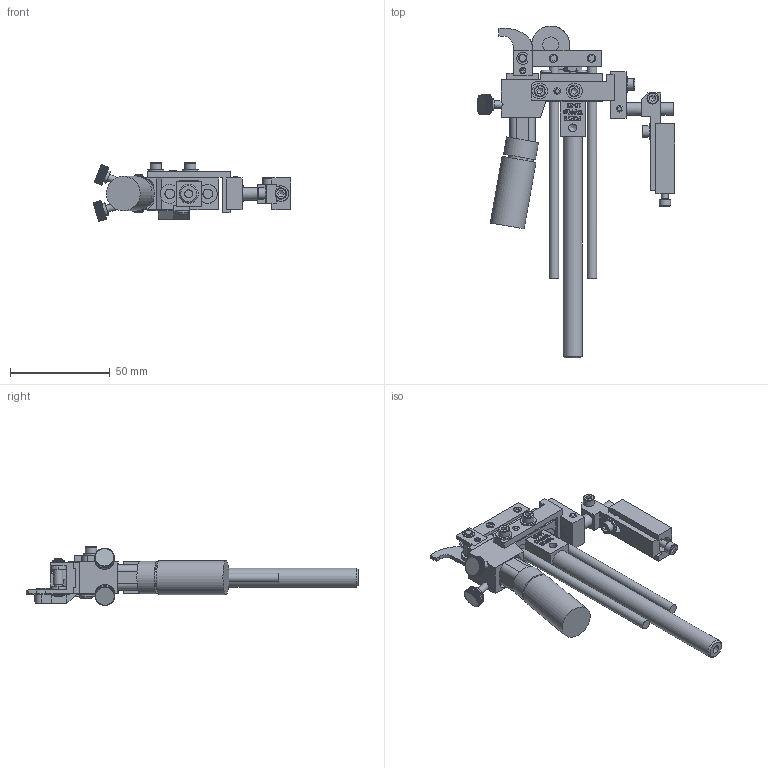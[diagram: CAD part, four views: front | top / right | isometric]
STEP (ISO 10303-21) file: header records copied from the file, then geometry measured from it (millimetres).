
FILE_DESCRIPTION((''),'2;1');
FILE_NAME('C:\Documents and Settings\Ron\My Documents\Inventor\Sprinter Drawing\Machines in Inventor\Model 22\Dot\1-fourth\Ext Str\E2\Brkt\Ret\Model 22 ES 2 1-4 dot ret w brkt.stp','2009-01-22T10:18:14',('Ron'),(''),'Autodesk Inventor 2008','Autodesk Inventor 2008','');
FILE_SCHEMA(('AUTOMOTIVE_DESIGN { 1 0 10303 214 1 1 1 1 }'));
Length unit declared in the file: inch
Products named in the file (1): Model 22 ES 2 1-4 dot ret w brkt
Bounding box: 99.17 x 166.63 x 29.55 mm (x, y, z)
Volume: 61939.4 mm3; surface area: 36455.1 mm2
Topology: 33 solids, 33 shells, 4744 faces, 13170 edges, 8746 vertices
Faces by surface type: plane 2899, bspline 1290, cylinder 484, cone 57, torus 14
Full cylindrical faces by diameter (mm): 2.845 x3, 2.946 x2, 3.175 x5, 3.505 x7, 3.556 x2, 3.658 x2, 3.876 x1, 3.962 x9, 4.064 x1, 4.166 x3, 4.648 x2, 4.699 x1, 4.75 x1, 4.763 x2, 4.788 x1, 5.41 x2, 5.556 x1, 5.74 x6, 6.096 x1, 6.325 x2, 6.35 x3, 6.477 x1, 6.655 x1, 7.925 x4, 7.938 x1, 8.128 x1, 9.462 x1, 9.525 x1, 10.922 x1, 11.938 x1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
Entity records: 166021 total; most frequent: CARTESIAN_POINT 49094, ORIENTED_EDGE 25794, DIRECTION 18489, EDGE_CURVE 12897, VECTOR 9065, LINE 9065, VERTEX_POINT 8654, EDGE_LOOP 5271
